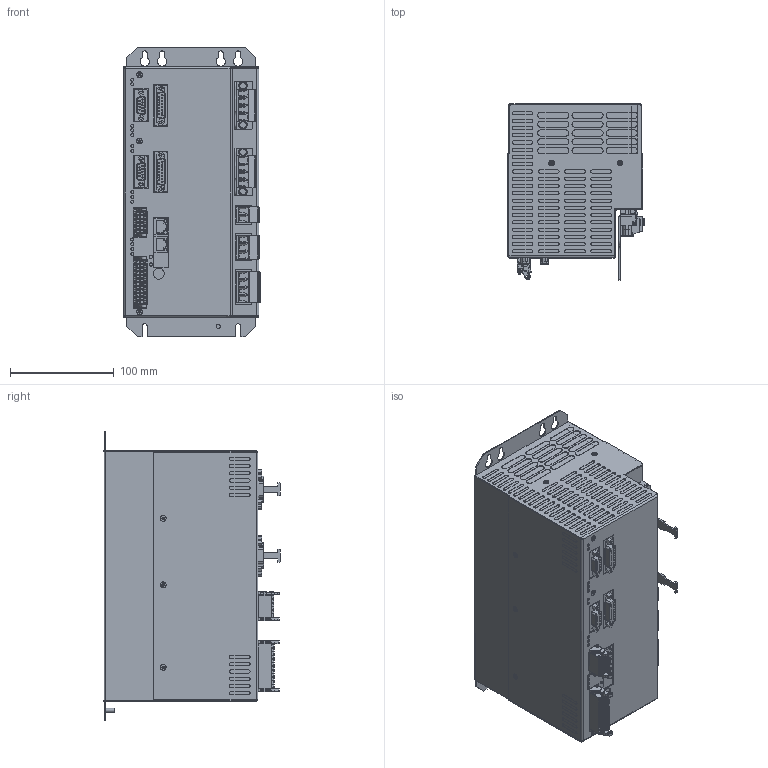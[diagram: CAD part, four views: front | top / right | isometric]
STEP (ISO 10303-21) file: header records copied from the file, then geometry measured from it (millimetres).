
FILE_DESCRIPTION (( 'STEP AP214' ), '1' );
FILE_NAME ('GIN-SAC4x2b.STEP', '2017-07-27T12:31:35', ( '' ), ( '' ), 'SwSTEP 2.0', 'SolidWorks 2016', '' );
FILE_SCHEMA (( 'AUTOMOTIVE_DESIGN' ));
Length unit declared in the file: millimetre
Products named in the file (1): GIN-SAC4x2b
Bounding box: 131.09 x 169.7 x 279 mm (x, y, z)
Surface area: 308921.6 mm2 (no closed solid volume)
Topology: 0 solids, 115 shells, 2528 faces, 9938 edges, 7524 vertices
Faces by surface type: plane 1476, cylinder 900, bspline 79, cone 43, torus 29, sphere 1
Full cylindrical faces by diameter (mm): 0.6 x3, 1.143 x47, 2.4 x5, 2.5 x8, 3 x52, 4 x9, 5.2 x9, 5.4 x8, 6.4 x4, 6.6 x9, 10.5 x1
Entity records: 139164 total; most frequent: CARTESIAN_POINT 30643, DIRECTION 16716, ORIENTED_EDGE 14316, EDGE_CURVE 9636, VERTEX_POINT 7445, LINE 6176, VECTOR 6176, AXIS2_PLACEMENT_3D 5270
